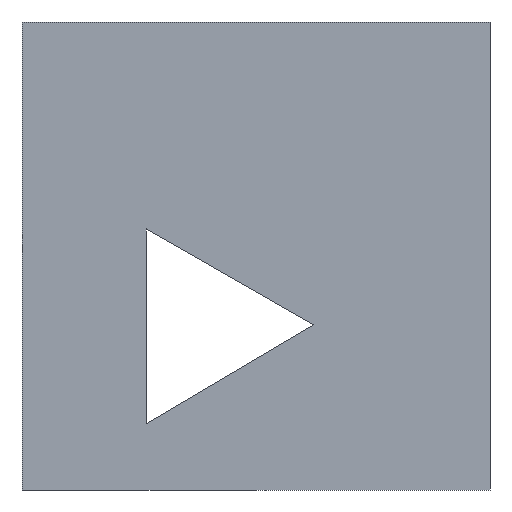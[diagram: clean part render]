
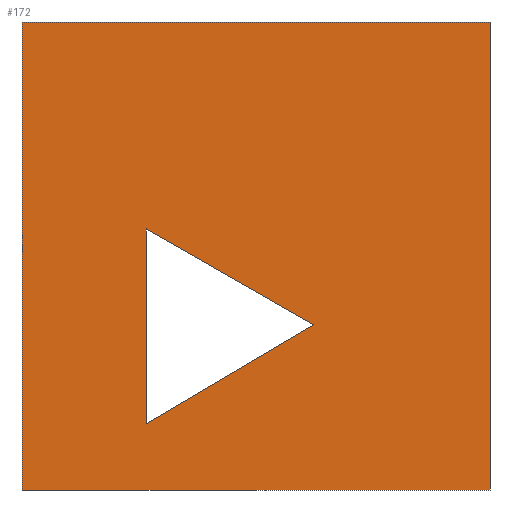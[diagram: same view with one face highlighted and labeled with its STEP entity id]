
A CAD part, left-side view. The second image highlights one B-rep face of the part: STEP entity #172.
In plain terms, the highlighted planar face has unit normal (-1, 0, 0).
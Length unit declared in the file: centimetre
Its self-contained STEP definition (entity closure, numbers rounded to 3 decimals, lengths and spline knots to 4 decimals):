
#3 = CARTESIAN_POINT ( 'NONE',  ( 0., 734.5435, 557.707 ) ) ;
#11 = DIRECTION ( 'NONE',  ( 0., -1., 0. ) ) ;
#13 = VECTOR ( 'NONE', #101, 100. ) ;
#14 = EDGE_CURVE ( 'NONE', #147, #135, #107, .T. ) ;
#20 = ORIENTED_EDGE ( 'NONE', *, *, #418, .F. ) ;
#23 = VECTOR ( 'NONE', #175, 100. ) ;
#24 = EDGE_LOOP ( 'NONE', ( #33, #249, #20, #429 ) ) ;
#31 = CARTESIAN_POINT ( 'NONE',  ( 0., 734.5435, 141.6662 ) ) ;
#33 = ORIENTED_EDGE ( 'NONE', *, *, #142, .T. ) ;
#37 = VECTOR ( 'NONE', #221, 100. ) ;
#49 = CARTESIAN_POINT ( 'NONE',  ( 0., 376.1292, 352.956 ) ) ;
#60 = DIRECTION ( 'NONE',  ( 0., 0., -1. ) ) ;
#69 = ORIENTED_EDGE ( 'NONE', *, *, #193, .F. ) ;
#89 = CARTESIAN_POINT ( 'NONE',  ( 0., 376.1292, 352.956 ) ) ;
#96 = CARTESIAN_POINT ( 'NONE',  ( 0., 1000., 0. ) ) ;
#101 = DIRECTION ( 'NONE',  ( 0., -0.861, 0.508 ) ) ;
#102 = VERTEX_POINT ( 'NONE', #128 ) ;
#103 = CARTESIAN_POINT ( 'NONE',  ( 0., 0., 1000. ) ) ;
#107 = LINE ( 'NONE', #302, #162 ) ;
#109 = LINE ( 'NONE', #238, #313 ) ;
#112 = VECTOR ( 'NONE', #11, 100. ) ;
#124 = VERTEX_POINT ( 'NONE', #89 ) ;
#128 = CARTESIAN_POINT ( 'NONE',  ( 0., 734.5435, 141.6662 ) ) ;
#131 = DIRECTION ( 'NONE',  ( 0., 0., -1. ) ) ;
#135 = VERTEX_POINT ( 'NONE', #216 ) ;
#136 = LINE ( 'NONE', #3, #404 ) ;
#137 = DIRECTION ( 'NONE',  ( 0., 0., -1. ) ) ;
#141 = AXIS2_PLACEMENT_3D ( 'NONE', #291, #329, #60 ) ;
#142 = EDGE_CURVE ( 'NONE', #135, #230, #427, .T. ) ;
#143 = LINE ( 'NONE', #178, #112 ) ;
#147 = VERTEX_POINT ( 'NONE', #373 ) ;
#154 = PLANE ( 'NONE',  #141 ) ;
#156 = EDGE_LOOP ( 'NONE', ( #69, #248, #292 ) ) ;
#162 = VECTOR ( 'NONE', #137, 100. ) ;
#172 = ADVANCED_FACE ( 'NONE', ( #257, #187 ), #154, .F. ) ;
#175 = DIRECTION ( 'NONE',  ( 0., 0.868, 0.496 ) ) ;
#178 = CARTESIAN_POINT ( 'NONE',  ( 0., 1000., 1000. ) ) ;
#187 = FACE_OUTER_BOUND ( 'NONE', #24, .T. ) ;
#193 = EDGE_CURVE ( 'NONE', #102, #124, #403, .T. ) ;
#195 = VERTEX_POINT ( 'NONE', #228 ) ;
#211 = VERTEX_POINT ( 'NONE', #103 ) ;
#213 = EDGE_CURVE ( 'NONE', #211, #230, #109, .T. ) ;
#214 = LINE ( 'NONE', #49, #23 ) ;
#216 = CARTESIAN_POINT ( 'NONE',  ( 0., 1000., 0. ) ) ;
#221 = DIRECTION ( 'NONE',  ( 0., -1., 0. ) ) ;
#228 = CARTESIAN_POINT ( 'NONE',  ( 0., 734.5435, 557.707 ) ) ;
#230 = VERTEX_POINT ( 'NONE', #349 ) ;
#238 = CARTESIAN_POINT ( 'NONE',  ( 0., 0., 1000. ) ) ;
#248 = ORIENTED_EDGE ( 'NONE', *, *, #251, .F. ) ;
#249 = ORIENTED_EDGE ( 'NONE', *, *, #213, .F. ) ;
#251 = EDGE_CURVE ( 'NONE', #195, #102, #136, .T. ) ;
#257 = FACE_BOUND ( 'NONE', #156, .T. ) ;
#291 = CARTESIAN_POINT ( 'NONE',  ( 0., 1000., 1000. ) ) ;
#292 = ORIENTED_EDGE ( 'NONE', *, *, #380, .F. ) ;
#302 = CARTESIAN_POINT ( 'NONE',  ( 0., 1000., 1000. ) ) ;
#313 = VECTOR ( 'NONE', #412, 100. ) ;
#329 = DIRECTION ( 'NONE',  ( 1., 0., 0. ) ) ;
#349 = CARTESIAN_POINT ( 'NONE',  ( 0., 0., 0. ) ) ;
#373 = CARTESIAN_POINT ( 'NONE',  ( 0., 1000., 1000. ) ) ;
#380 = EDGE_CURVE ( 'NONE', #124, #195, #214, .T. ) ;
#403 = LINE ( 'NONE', #31, #13 ) ;
#404 = VECTOR ( 'NONE', #131, 100. ) ;
#412 = DIRECTION ( 'NONE',  ( 0., 0., -1. ) ) ;
#418 = EDGE_CURVE ( 'NONE', #147, #211, #143, .T. ) ;
#427 = LINE ( 'NONE', #96, #37 ) ;
#429 = ORIENTED_EDGE ( 'NONE', *, *, #14, .T. ) ;
